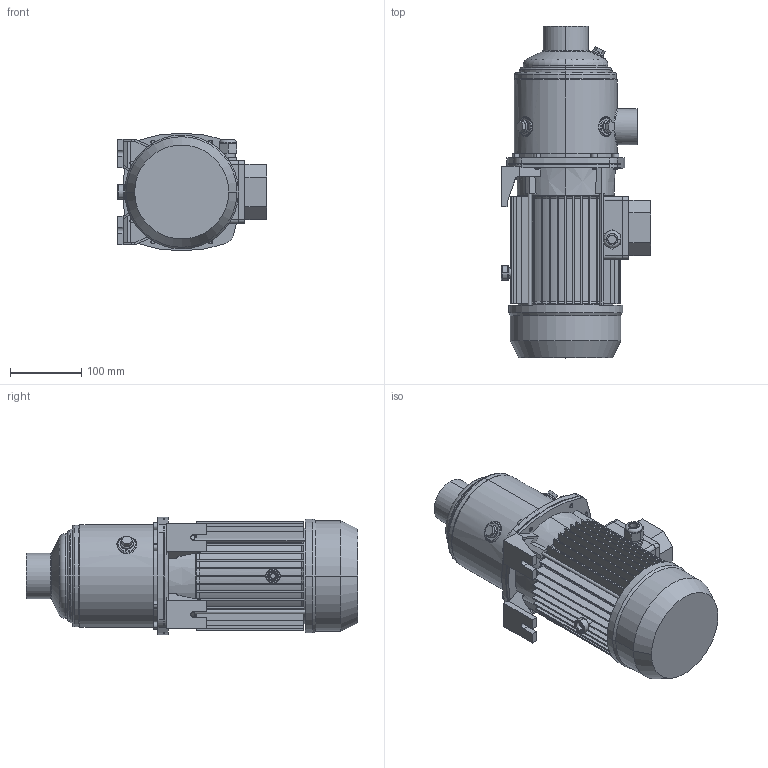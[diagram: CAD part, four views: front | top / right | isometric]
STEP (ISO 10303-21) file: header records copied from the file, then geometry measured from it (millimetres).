
FILE_DESCRIPTION((''),'2;1');
FILE_NAME('MATRIX_18-3T_2_2_IE3_ASM','2018-06-01T',('rosa'),('"Ebara Pumps Europe +39.444.706811"'),'PRO/ENGINEER BY PARAMETRIC TECHNOLOGY CORPORATION, 2012130','PRO/ENGINEER BY PARAMETRIC TECHNOLOGY CORPORATION, 2012130','');
FILE_SCHEMA(('AUTOMOTIVE_DESIGN { 1 0 10303 214 1 1 1 1 }'));
Length unit declared in the file: millimetre
Products named in the file (5): CORPO_POMPA_MATRIX_18-2_3; SUPPORTO_MATRIX_MEC_80; MEC_80X130_IE3; 72229; MATRIX_18-3T_2_2_IE3_ASM
Assembly tree (4 placements, depth 2):
  MATRIX_18-3T_2_2_IE3_ASM
    CORPO_POMPA_MATRIX_18-2_3
    SUPPORTO_MATRIX_MEC_80
    MEC_80X130_IE3
    72229
Bounding box: 209 x 464.8 x 165 mm (x, y, z)
Volume: 5272835.7 mm3; surface area: 582352.2 mm2
Topology: 4 solids, 4 shells, 722 faces, 1743 edges, 1077 vertices
Faces by surface type: plane 377, cylinder 186, cone 101, torus 37, bspline 20, sphere 1
Entity records: 28536 total; most frequent: CARTESIAN_POINT 5699, DIRECTION 3660, ORIENTED_EDGE 3486, EDGE_CURVE 1743, PRESENTATION_STYLE_ASSIGNMENT 1696, STYLED_ITEM 1696, CURVE_STYLE 1693, AXIS2_PLACEMENT_3D 1402
